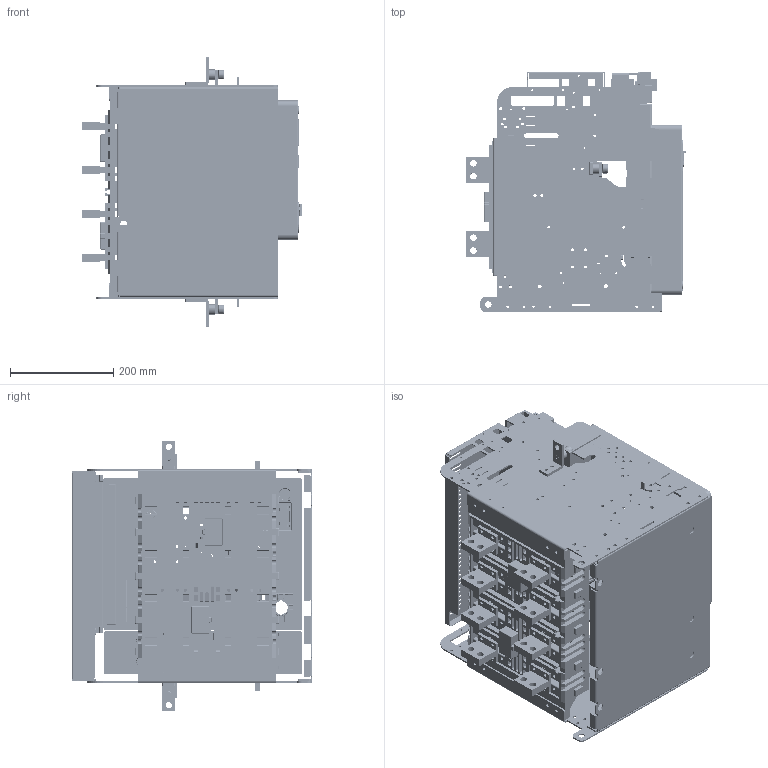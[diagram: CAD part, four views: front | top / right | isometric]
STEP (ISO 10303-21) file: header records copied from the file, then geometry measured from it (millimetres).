
FILE_DESCRIPTION((''),'2;1');
FILE_NAME('HG_04_A164V_ASM_ASM','2019-03-27T',('HHI'),(''),'PRO/ENGINEER BY PARAMETRIC TECHNOLOGY CORPORATION, 2012453','PRO/ENGINEER BY PARAMETRIC TECHNOLOGY CORPORATION, 2012453','');
FILE_SCHEMA(('CONFIG_CONTROL_DESIGN'));
Products named in the file (40): MANIFOLD_SOLID_BREP_10044; MANIFOLD_SOLID_BREP_10264; MAIN_SC-DR-FRAME_L_48_ASM; MAIN_SC-DR-BASE-204_16; MANIFOLD_SOLID_BREP_25959; MANIFOLD_SOLID_BREP_26179; MAIN_SC-DR-FRAME_R_47_ASM; SC_TERMINAL_MOLD204_17; SC_CO_JACK_DFC_204_20; MAIN_SC-CONTROL_JACK-CRADLE_41; ACB-HIAN-REDRAW-BODY_SC_CONTROL; TERMINAL_A16HV_17; SC_CONTROL_JACK_32; SC_DR_DEVICE_COVER2_32; SC_DR_LOCK_PUSH_BUTTON_32; SC_MANUAL_POSITION_LOCK_32; SC-DR-INDICATOR_SAMPLE_34; DR_COVER_SAMPLE_ASM_33_ASM; MAIN_SC-OCR-COVER-U-DD-RE_33; MAIN_SC-OCR-PROTECTION-COVER-RE; MAIN_SC-OCR-LOWER-COVER-RE_32; OCR_COVER_SAMPLE_ASM_33_ASM; N_CHARGE_HANDLE_29; COVER203_ASSY_ASM_36_ASM; MAIN_SC-MAIN-FRONT-COVER-20N_14; COVER204_ASSY_ASM_22_ASM; U_ARC_SHIELD_204_5; SC-FIX-BLOCK-L_3; FIX_BODY_EXTRA_3; FIX_BLOCK_CRADLE_6; BOLT_5; FIX_BODY_ASM_L_ASM_4_ASM; SC-FIX-BLOCK-R_6; SC-FIX-BLOCK-SUP-R_4; FIX_BODY_ASM_R_ASM_7_ASM; A164V_ASM_15_ASM; HG_FRONT_COVER_20; 4AT-06477S03; 4AT-06477S04; HG_04_A164V_ASM_ASM
Assembly tree (48 placements, depth 6):
  HG_04_A164V_ASM_ASM
    A164V_ASM_15_ASM
      MAIN_SC-DR-FRAME_L_48_ASM
        MANIFOLD_SOLID_BREP_10044
        MANIFOLD_SOLID_BREP_10264
      MAIN_SC-DR-BASE-204_16
      MAIN_SC-DR-FRAME_R_47_ASM
        MANIFOLD_SOLID_BREP_25959
        MANIFOLD_SOLID_BREP_26179
      SC_TERMINAL_MOLD204_17
      SC_CO_JACK_DFC_204_20
      MAIN_SC-CONTROL_JACK-CRADLE_41
      ACB-HIAN-REDRAW-BODY_SC_CONTROL
      TERMINAL_A16HV_17  x8
      COVER204_ASSY_ASM_22_ASM
        COVER203_ASSY_ASM_36_ASM
          SC_CONTROL_JACK_32
          DR_COVER_SAMPLE_ASM_33_ASM
            SC_DR_DEVICE_COVER2_32
            SC_DR_LOCK_PUSH_BUTTON_32
            SC_MANUAL_POSITION_LOCK_32
            SC-DR-INDICATOR_SAMPLE_34
          OCR_COVER_SAMPLE_ASM_33_ASM
            MAIN_SC-OCR-COVER-U-DD-RE_33
            MAIN_SC-OCR-PROTECTION-COVER-RE
            MAIN_SC-OCR-LOWER-COVER-RE_32
          N_CHARGE_HANDLE_29
        MAIN_SC-MAIN-FRONT-COVER-20N_14
      U_ARC_SHIELD_204_5
      FIX_BODY_ASM_L_ASM_4_ASM
        SC-FIX-BLOCK-L_3
        FIX_BODY_EXTRA_3
        FIX_BLOCK_CRADLE_6
        BOLT_5
      FIX_BODY_ASM_R_ASM_7_ASM
        SC-FIX-BLOCK-R_6
        SC-FIX-BLOCK-SUP-R_4
        FIX_BLOCK_CRADLE_6
        BOLT_5
    HG_FRONT_COVER_20
    4AT-06477S03
    4AT-06477S04
Bounding box: 428.03 x 466.35 x 525.1 mm (x, y, z)
Volume: 5073591.6 mm3; surface area: 3272282.8 mm2
Topology: 39 solids, 56 shells, 14425 faces, 42423 edges, 27817 vertices
Faces by surface type: plane 10976, cylinder 2778, torus 255, extrusion 175, sphere 122, cone 69, bspline 50
Entity records: 475139 total; most frequent: CARTESIAN_POINT 89668, ORIENTED_EDGE 83200, DIRECTION 75477, EDGE_CURVE 41731, VECTOR 34983, LINE 34808, VERTEX_POINT 27393, AXIS2_PLACEMENT_3D 20247
